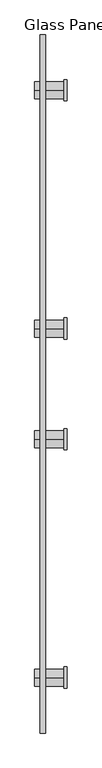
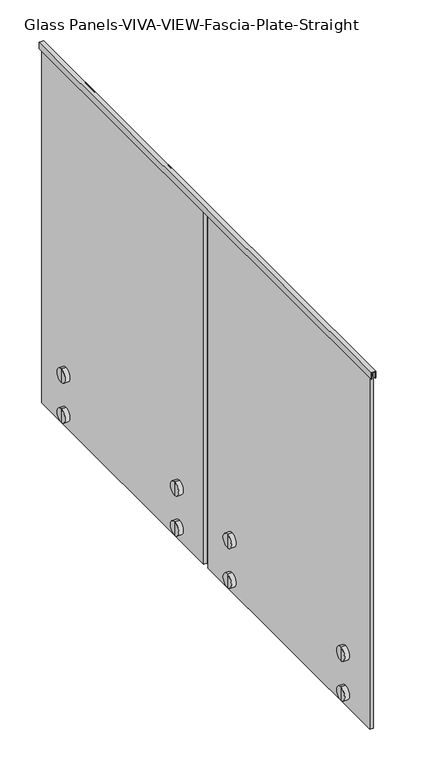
"""IFC4 building model written with IfcOpenShell, lengths in millimetres: railing geometry, Glass Panels-VIVA-VIEW-Fascia-Plate-Straight."""

from ifc_helpers import new_model, si_unit, point, frame, frame_2d, origin, place, context, project, spatial, polyline, circle_curve, trimmed, segment, composite_curve, outline, extrude, source, transform, mapped, element, save
from ifc_brep_helpers import plane_surface, cylinder_surface, advanced_brep


def glass_panels_viva_view_fascia_plate_straight_1b2cf416(model_context):
    return source(origin(), model_context, "Body", "SolidModel", [
        extrude(outline(polyline([(4140.2, 20982.8017902), (4140.2, 20966.9267902), (4114.8, 20966.9267902), (4114.8, 20968.5142902), (4138.6125, 20968.5142902), (4138.6125, 20981.2142902), (4114.8, 20981.2142902), (4114.8, 20982.8017902), (4140.2, 20982.8017902)])), frame((0.0, -10275.2843115, 0.0), z_axis=(0.0, 1.0, 0.0), x_axis=(0.0, 0.0, 1.0)), (0.0, 0.0, 1.0), 2082.8),
        advanced_brep(
        [(20951.0520842, -9068.4012649, 2794.0), (20951.0520842, -9068.4012649, 2819.4), (20951.0520842, -9068.4012649, 2844.8), (20968.5145842, -9068.4012649, 2794.0), (20968.5145842, -9068.4012649, 2844.8), (20968.5145842, -9068.4012649, 2813.685), (20968.5145842, -9068.4012649, 2825.115), (20981.2145842, -9068.4012649, 2813.685), (20981.2145842, -9068.4012649, 2825.115), (20981.2145842, -9068.4012649, 2794.0), (20981.2145842, -9068.4012649, 2844.8), (21038.3644372, -9068.4012649, 2794.0), (21038.3644372, -9068.4012649, 2844.8), (21038.3644372, -9068.4012649, 2819.4)],
        [
            (0, 1),
            (1, 2),
            (2, 0, circle_curve(frame((20951.0520842, -9068.4012649, 2819.4), z_axis=(-1.0, 0.0, 0.0), x_axis=(0.0, 0.0, 1.0)), 25.4)),
            (0, 2, circle_curve(frame((20951.0520842, -9068.4012649, 2819.4), z_axis=(-1.0, 0.0, 0.0), x_axis=(0.0, 0.0, 1.0)), 25.4)),
            (3, 0),
            (2, 4),
            (4, 3, circle_curve(frame((20968.5145842, -9068.4012649, 2819.4), z_axis=(-1.0, 0.0, 0.0), x_axis=(0.0, 0.0, 1.0)), 25.4)),
            (3, 4, circle_curve(frame((20968.5145842, -9068.4012649, 2819.4), z_axis=(-1.0, 0.0, 0.0), x_axis=(0.0, 0.0, 1.0)), 25.4)),
            (5, 3),
            (4, 6),
            (6, 5, circle_curve(frame((20968.5145842, -9068.4012649, 2819.4), z_axis=(-1.0, 0.0, 0.0), x_axis=(0.0, 0.0, 1.0)), 5.715)),
            (5, 6, circle_curve(frame((20968.5145842, -9068.4012649, 2819.4), z_axis=(-1.0, 0.0, 0.0), x_axis=(0.0, 0.0, 1.0)), 5.715)),
            (7, 5),
            (6, 8),
            (8, 7, circle_curve(frame((20981.2145842, -9068.4012649, 2819.4), z_axis=(-1.0, 0.0, 0.0), x_axis=(0.0, 0.0, 1.0)), 5.715)),
            (7, 8, circle_curve(frame((20981.2145842, -9068.4012649, 2819.4), z_axis=(-1.0, 0.0, 0.0), x_axis=(0.0, 0.0, 1.0)), 5.715)),
            (9, 7),
            (8, 10),
            (10, 9, circle_curve(frame((20981.2145842, -9068.4012649, 2819.4), z_axis=(-1.0, 0.0, 0.0), x_axis=(0.0, 0.0, 1.0)), 25.4)),
            (9, 10, circle_curve(frame((20981.2145842, -9068.4012649, 2819.4), z_axis=(-1.0, 0.0, 0.0), x_axis=(0.0, 0.0, 1.0)), 25.4)),
            (11, 9),
            (10, 12),
            (12, 11, circle_curve(frame((21038.3644372, -9068.4012649, 2819.4), z_axis=(-1.0, 0.0, 0.0), x_axis=(0.0, 0.0, 1.0)), 25.4)),
            (11, 12, circle_curve(frame((21038.3644372, -9068.4012649, 2819.4), z_axis=(-1.0, 0.0, 0.0), x_axis=(0.0, 0.0, 1.0)), 25.4)),
            (13, 11),
            (12, 13),
        ],
        [
            plane_surface(frame((20951.0520842, -9068.4012649, 2819.4), z_axis=(-1.0, 0.0, 0.0), x_axis=(0.0, 0.0, 1.0))),
            cylinder_surface(frame((20882.7894372, -9068.4012649, 2819.4), z_axis=(1.0, 0.0, 0.0), x_axis=(0.0, 0.0, 1.0)), 25.4),
            plane_surface(frame((20968.5145842, -9068.4012649, 2819.4), z_axis=(1.0, 0.0, 0.0), x_axis=(0.0, 0.0, 1.0))),
            cylinder_surface(frame((20882.7894372, -9068.4012649, 2819.4), z_axis=(1.0, 0.0, 0.0), x_axis=(0.0, 0.0, 1.0)), 5.715),
            plane_surface(frame((20981.2145842, -9068.4012649, 2819.4), z_axis=(-1.0, 0.0, 0.0), x_axis=(0.0, 0.0, 1.0))),
            plane_surface(frame((21038.3644372, -9068.4012649, 2819.4), z_axis=(1.0, 0.0, 0.0), x_axis=(0.0, 0.0, 1.0))),
        ],
        [
            (0, [[1, 2, 3]]),
            (0, [[-2, -1, 4]]),
            (1, [[5, -3, 6, 7]]),
            (1, [[-6, -4, -5, 8]]),
            (2, [[9, -7, 10, 11]]),
            (2, [[-10, -8, -9, 12]]),
            (3, [[13, -11, 14, 15]]),
            (3, [[-14, -12, -13, 16]]),
            (4, [[17, -15, 18, 19]]),
            (4, [[-18, -16, -17, 20]]),
            (1, [[21, -19, 22, 23]]),
            (1, [[-22, -20, -21, 24]]),
            (5, [[25, -23, 26]]),
            (5, [[-26, -24, -25]]),
        ],
    ),
        advanced_brep(
        [(20968.5145842, -9068.4012649, 2966.085), (20968.5145842, -9068.4012649, 2946.4), (20968.5145842, -9068.4012649, 2997.2), (20968.5145842, -9068.4012649, 2977.515), (20981.2145842, -9068.4012649, 2966.085), (20981.2145842, -9068.4012649, 2977.515), (20981.2145842, -9068.4012649, 2946.4), (20981.2145842, -9068.4012649, 2997.2), (21038.3644372, -9068.4012649, 2946.4), (21038.3644372, -9068.4012649, 2997.2), (21038.3644372, -9068.4012649, 2971.8), (20951.0520842, -9068.4012649, 2946.4), (20951.0520842, -9068.4012649, 2971.8), (20951.0520842, -9068.4012649, 2997.2)],
        [
            (0, 1),
            (1, 2, circle_curve(frame((20968.5145842, -9068.4012649, 2971.8), z_axis=(1.0, 0.0, 0.0), x_axis=(0.0, 0.0, 1.0)), 25.4)),
            (2, 3),
            (3, 0, circle_curve(frame((20968.5145842, -9068.4012649, 2971.8), z_axis=(-1.0, 0.0, 0.0), x_axis=(0.0, 0.0, 1.0)), 5.715)),
            (2, 1, circle_curve(frame((20968.5145842, -9068.4012649, 2971.8), z_axis=(1.0, 0.0, 0.0), x_axis=(0.0, 0.0, 1.0)), 25.4)),
            (0, 3, circle_curve(frame((20968.5145842, -9068.4012649, 2971.8), z_axis=(-1.0, 0.0, 0.0), x_axis=(0.0, 0.0, 1.0)), 5.715)),
            (4, 0),
            (3, 5),
            (5, 4, circle_curve(frame((20981.2145842, -9068.4012649, 2971.8), z_axis=(-1.0, 0.0, 0.0), x_axis=(0.0, 0.0, 1.0)), 5.715)),
            (4, 5, circle_curve(frame((20981.2145842, -9068.4012649, 2971.8), z_axis=(-1.0, 0.0, 0.0), x_axis=(0.0, 0.0, 1.0)), 5.715)),
            (6, 4),
            (5, 7),
            (7, 6, circle_curve(frame((20981.2145842, -9068.4012649, 2971.8), z_axis=(-1.0, 0.0, 0.0), x_axis=(0.0, 0.0, 1.0)), 25.4)),
            (6, 7, circle_curve(frame((20981.2145842, -9068.4012649, 2971.8), z_axis=(-1.0, 0.0, 0.0), x_axis=(0.0, 0.0, 1.0)), 25.4)),
            (8, 6),
            (7, 9),
            (9, 8, circle_curve(frame((21038.3644372, -9068.4012649, 2971.8), z_axis=(-1.0, 0.0, 0.0), x_axis=(0.0, 0.0, 1.0)), 25.4)),
            (8, 9, circle_curve(frame((21038.3644372, -9068.4012649, 2971.8), z_axis=(-1.0, 0.0, 0.0), x_axis=(0.0, 0.0, 1.0)), 25.4)),
            (10, 8),
            (9, 10),
            (11, 12),
            (12, 13),
            (13, 11, circle_curve(frame((20951.0520842, -9068.4012649, 2971.8), z_axis=(-1.0, 0.0, 0.0), x_axis=(0.0, 0.0, 1.0)), 25.4)),
            (11, 13, circle_curve(frame((20951.0520842, -9068.4012649, 2971.8), z_axis=(-1.0, 0.0, 0.0), x_axis=(0.0, 0.0, 1.0)), 25.4)),
            (1, 11),
            (13, 2),
        ],
        [
            plane_surface(frame((20968.5145842, -9068.4012649, 2971.8), z_axis=(1.0, 0.0, 0.0), x_axis=(0.0, 0.0, 1.0))),
            cylinder_surface(frame((20882.7894372, -9068.4012649, 2971.8), z_axis=(1.0, 0.0, 0.0), x_axis=(0.0, 0.0, 1.0)), 5.715),
            plane_surface(frame((20981.2145842, -9068.4012649, 2971.8), z_axis=(-1.0, 0.0, 0.0), x_axis=(0.0, 0.0, 1.0))),
            cylinder_surface(frame((20882.7894372, -9068.4012649, 2971.8), z_axis=(1.0, 0.0, 0.0), x_axis=(0.0, 0.0, 1.0)), 25.4),
            plane_surface(frame((21038.3644372, -9068.4012649, 2971.8), z_axis=(1.0, 0.0, 0.0), x_axis=(0.0, 0.0, 1.0))),
            plane_surface(frame((20951.0520842, -9068.4012649, 2971.8), z_axis=(-1.0, 0.0, 0.0), x_axis=(0.0, 0.0, 1.0))),
        ],
        [
            (0, [[1, 2, 3, 4]]),
            (0, [[-3, 5, -1, 6]]),
            (1, [[7, -4, 8, 9]]),
            (1, [[-8, -6, -7, 10]]),
            (2, [[11, -9, 12, 13]]),
            (2, [[-12, -10, -11, 14]]),
            (3, [[15, -13, 16, 17]]),
            (3, [[-16, -14, -15, 18]]),
            (4, [[19, -17, 20]]),
            (4, [[-20, -18, -19]]),
            (5, [[21, 22, 23]]),
            (5, [[-22, -21, 24]]),
            (3, [[25, -23, 26, -2]]),
            (3, [[-26, -24, -25, -5]]),
        ],
    ),
        extrude(outline(composite_curve([segment(trimmed(circle_curve(frame_2d((-9068.4012649, 2971.8)), 31.75), [point((-9100.1512649, 2971.8))], [point((-9036.6512649, 2971.8))], False, "CARTESIAN"), True, "CONTINUOUS"), segment(polyline([(-9036.6512649, 2971.8), (-9036.6512649, 2819.4)]), True, "CONTINUOUS"), segment(trimmed(circle_curve(frame_2d((-9068.4012649, 2819.4)), 31.75), [point((-9036.6512649, 2819.4))], [point((-9100.1512649, 2819.4))], False, "CARTESIAN"), True, "CONTINUOUS"), segment(polyline([(-9100.1512649, 2819.4), (-9100.1512649, 2971.8)]), True, "CONTINUOUS")], self_intersect=False)), frame((21038.3644372, 0.0, 0.0), z_axis=(1.0, 0.0, 0.0), x_axis=(0.0, 1.0, 0.0)), (0.0, 0.0, 1.0), 9.525),
        advanced_brep(
        [(20951.0520842, -8357.2012649, 2794.0), (20951.0520842, -8357.2012649, 2819.4), (20951.0520842, -8357.2012649, 2844.8), (20968.5145842, -8357.2012649, 2794.0), (20968.5145842, -8357.2012649, 2844.8), (20968.5145842, -8357.2012649, 2813.685), (20968.5145842, -8357.2012649, 2825.115), (20981.2145842, -8357.2012649, 2813.685), (20981.2145842, -8357.2012649, 2825.115), (20981.2145842, -8357.2012649, 2794.0), (20981.2145842, -8357.2012649, 2844.8), (21038.3644372, -8357.2012649, 2794.0), (21038.3644372, -8357.2012649, 2844.8), (21038.3644372, -8357.2012649, 2819.4)],
        [
            (0, 1),
            (1, 2),
            (2, 0, circle_curve(frame((20951.0520842, -8357.2012649, 2819.4), z_axis=(-1.0, 0.0, 0.0), x_axis=(0.0, 0.0, 1.0)), 25.4)),
            (0, 2, circle_curve(frame((20951.0520842, -8357.2012649, 2819.4), z_axis=(-1.0, 0.0, 0.0), x_axis=(0.0, 0.0, 1.0)), 25.4)),
            (3, 0),
            (2, 4),
            (4, 3, circle_curve(frame((20968.5145842, -8357.2012649, 2819.4), z_axis=(-1.0, 0.0, 0.0), x_axis=(0.0, 0.0, 1.0)), 25.4)),
            (3, 4, circle_curve(frame((20968.5145842, -8357.2012649, 2819.4), z_axis=(-1.0, 0.0, 0.0), x_axis=(0.0, 0.0, 1.0)), 25.4)),
            (5, 3),
            (4, 6),
            (6, 5, circle_curve(frame((20968.5145842, -8357.2012649, 2819.4), z_axis=(-1.0, 0.0, 0.0), x_axis=(0.0, 0.0, 1.0)), 5.715)),
            (5, 6, circle_curve(frame((20968.5145842, -8357.2012649, 2819.4), z_axis=(-1.0, 0.0, 0.0), x_axis=(0.0, 0.0, 1.0)), 5.715)),
            (7, 5),
            (6, 8),
            (8, 7, circle_curve(frame((20981.2145842, -8357.2012649, 2819.4), z_axis=(-1.0, 0.0, 0.0), x_axis=(0.0, 0.0, 1.0)), 5.715)),
            (7, 8, circle_curve(frame((20981.2145842, -8357.2012649, 2819.4), z_axis=(-1.0, 0.0, 0.0), x_axis=(0.0, 0.0, 1.0)), 5.715)),
            (9, 7),
            (8, 10),
            (10, 9, circle_curve(frame((20981.2145842, -8357.2012649, 2819.4), z_axis=(-1.0, 0.0, 0.0), x_axis=(0.0, 0.0, 1.0)), 25.4)),
            (9, 10, circle_curve(frame((20981.2145842, -8357.2012649, 2819.4), z_axis=(-1.0, 0.0, 0.0), x_axis=(0.0, 0.0, 1.0)), 25.4)),
            (11, 9),
            (10, 12),
            (12, 11, circle_curve(frame((21038.3644372, -8357.2012649, 2819.4), z_axis=(-1.0, 0.0, 0.0), x_axis=(0.0, 0.0, 1.0)), 25.4)),
            (11, 12, circle_curve(frame((21038.3644372, -8357.2012649, 2819.4), z_axis=(-1.0, 0.0, 0.0), x_axis=(0.0, 0.0, 1.0)), 25.4)),
            (13, 11),
            (12, 13),
        ],
        [
            plane_surface(frame((20951.0520842, -8357.2012649, 2819.4), z_axis=(-1.0, 0.0, 0.0), x_axis=(0.0, 0.0, 1.0))),
            cylinder_surface(frame((20882.7894372, -8357.2012649, 2819.4), z_axis=(1.0, 0.0, 0.0), x_axis=(0.0, 0.0, 1.0)), 25.4),
            plane_surface(frame((20968.5145842, -8357.2012649, 2819.4), z_axis=(1.0, 0.0, 0.0), x_axis=(0.0, 0.0, 1.0))),
            cylinder_surface(frame((20882.7894372, -8357.2012649, 2819.4), z_axis=(1.0, 0.0, 0.0), x_axis=(0.0, 0.0, 1.0)), 5.715),
            plane_surface(frame((20981.2145842, -8357.2012649, 2819.4), z_axis=(-1.0, 0.0, 0.0), x_axis=(0.0, 0.0, 1.0))),
            plane_surface(frame((21038.3644372, -8357.2012649, 2819.4), z_axis=(1.0, 0.0, 0.0), x_axis=(0.0, 0.0, 1.0))),
        ],
        [
            (0, [[1, 2, 3]]),
            (0, [[-2, -1, 4]]),
            (1, [[5, -3, 6, 7]]),
            (1, [[-6, -4, -5, 8]]),
            (2, [[9, -7, 10, 11]]),
            (2, [[-10, -8, -9, 12]]),
            (3, [[13, -11, 14, 15]]),
            (3, [[-14, -12, -13, 16]]),
            (4, [[17, -15, 18, 19]]),
            (4, [[-18, -16, -17, 20]]),
            (1, [[21, -19, 22, 23]]),
            (1, [[-22, -20, -21, 24]]),
            (5, [[25, -23, 26]]),
            (5, [[-26, -24, -25]]),
        ],
    ),
        advanced_brep(
        [(20968.5145842, -8357.2012649, 2966.085), (20968.5145842, -8357.2012649, 2946.4), (20968.5145842, -8357.2012649, 2997.2), (20968.5145842, -8357.2012649, 2977.515), (20981.2145842, -8357.2012649, 2966.085), (20981.2145842, -8357.2012649, 2977.515), (20981.2145842, -8357.2012649, 2946.4), (20981.2145842, -8357.2012649, 2997.2), (21038.3644372, -8357.2012649, 2946.4), (21038.3644372, -8357.2012649, 2997.2), (21038.3644372, -8357.2012649, 2971.8), (20951.0520842, -8357.2012649, 2946.4), (20951.0520842, -8357.2012649, 2971.8), (20951.0520842, -8357.2012649, 2997.2)],
        [
            (0, 1),
            (1, 2, circle_curve(frame((20968.5145842, -8357.2012649, 2971.8), z_axis=(1.0, 0.0, 0.0), x_axis=(0.0, 0.0, 1.0)), 25.4)),
            (2, 3),
            (3, 0, circle_curve(frame((20968.5145842, -8357.2012649, 2971.8), z_axis=(-1.0, 0.0, 0.0), x_axis=(0.0, 0.0, 1.0)), 5.715)),
            (2, 1, circle_curve(frame((20968.5145842, -8357.2012649, 2971.8), z_axis=(1.0, 0.0, 0.0), x_axis=(0.0, 0.0, 1.0)), 25.4)),
            (0, 3, circle_curve(frame((20968.5145842, -8357.2012649, 2971.8), z_axis=(-1.0, 0.0, 0.0), x_axis=(0.0, 0.0, 1.0)), 5.715)),
            (4, 0),
            (3, 5),
            (5, 4, circle_curve(frame((20981.2145842, -8357.2012649, 2971.8), z_axis=(-1.0, 0.0, 0.0), x_axis=(0.0, 0.0, 1.0)), 5.715)),
            (4, 5, circle_curve(frame((20981.2145842, -8357.2012649, 2971.8), z_axis=(-1.0, 0.0, 0.0), x_axis=(0.0, 0.0, 1.0)), 5.715)),
            (6, 4),
            (5, 7),
            (7, 6, circle_curve(frame((20981.2145842, -8357.2012649, 2971.8), z_axis=(-1.0, 0.0, 0.0), x_axis=(0.0, 0.0, 1.0)), 25.4)),
            (6, 7, circle_curve(frame((20981.2145842, -8357.2012649, 2971.8), z_axis=(-1.0, 0.0, 0.0), x_axis=(0.0, 0.0, 1.0)), 25.4)),
            (8, 6),
            (7, 9),
            (9, 8, circle_curve(frame((21038.3644372, -8357.2012649, 2971.8), z_axis=(-1.0, 0.0, 0.0), x_axis=(0.0, 0.0, 1.0)), 25.4)),
            (8, 9, circle_curve(frame((21038.3644372, -8357.2012649, 2971.8), z_axis=(-1.0, 0.0, 0.0), x_axis=(0.0, 0.0, 1.0)), 25.4)),
            (10, 8),
            (9, 10),
            (11, 12),
            (12, 13),
            (13, 11, circle_curve(frame((20951.0520842, -8357.2012649, 2971.8), z_axis=(-1.0, 0.0, 0.0), x_axis=(0.0, 0.0, 1.0)), 25.4)),
            (11, 13, circle_curve(frame((20951.0520842, -8357.2012649, 2971.8), z_axis=(-1.0, 0.0, 0.0), x_axis=(0.0, 0.0, 1.0)), 25.4)),
            (1, 11),
            (13, 2),
        ],
        [
            plane_surface(frame((20968.5145842, -8357.2012649, 2971.8), z_axis=(1.0, 0.0, 0.0), x_axis=(0.0, 0.0, 1.0))),
            cylinder_surface(frame((20882.7894372, -8357.2012649, 2971.8), z_axis=(1.0, 0.0, 0.0), x_axis=(0.0, 0.0, 1.0)), 5.715),
            plane_surface(frame((20981.2145842, -8357.2012649, 2971.8), z_axis=(-1.0, 0.0, 0.0), x_axis=(0.0, 0.0, 1.0))),
            cylinder_surface(frame((20882.7894372, -8357.2012649, 2971.8), z_axis=(1.0, 0.0, 0.0), x_axis=(0.0, 0.0, 1.0)), 25.4),
            plane_surface(frame((21038.3644372, -8357.2012649, 2971.8), z_axis=(1.0, 0.0, 0.0), x_axis=(0.0, 0.0, 1.0))),
            plane_surface(frame((20951.0520842, -8357.2012649, 2971.8), z_axis=(-1.0, 0.0, 0.0), x_axis=(0.0, 0.0, 1.0))),
        ],
        [
            (0, [[1, 2, 3, 4]]),
            (0, [[-3, 5, -1, 6]]),
            (1, [[7, -4, 8, 9]]),
            (1, [[-8, -6, -7, 10]]),
            (2, [[11, -9, 12, 13]]),
            (2, [[-12, -10, -11, 14]]),
            (3, [[15, -13, 16, 17]]),
            (3, [[-16, -14, -15, 18]]),
            (4, [[19, -17, 20]]),
            (4, [[-20, -18, -19]]),
            (5, [[21, 22, 23]]),
            (5, [[-22, -21, 24]]),
            (3, [[25, -23, 26, -2]]),
            (3, [[-26, -24, -25, -5]]),
        ],
    ),
        extrude(outline(composite_curve([segment(trimmed(circle_curve(frame_2d((-8357.2012649, 2971.8)), 31.75), [point((-8388.9512649, 2971.8))], [point((-8325.4512649, 2971.8))], False, "CARTESIAN"), True, "CONTINUOUS"), segment(polyline([(-8325.4512649, 2971.8), (-8325.4512649, 2819.4)]), True, "CONTINUOUS"), segment(trimmed(circle_curve(frame_2d((-8357.2012649, 2819.4)), 31.75), [point((-8325.4512649, 2819.4))], [point((-8388.9512649, 2819.4))], False, "CARTESIAN"), True, "CONTINUOUS"), segment(polyline([(-8388.9512649, 2819.4), (-8388.9512649, 2971.8)]), True, "CONTINUOUS")], self_intersect=False)), frame((21038.3644372, 0.0, 0.0), z_axis=(1.0, 0.0, 0.0), x_axis=(0.0, 1.0, 0.0)), (0.0, 0.0, 1.0), 9.525),
        extrude(outline(polyline([(20981.2142902, -9220.8012649), (20968.5142902, -9220.8012649), (20968.5142902, -8204.8012649), (20981.2142902, -8204.8012649), (20981.2142902, -9220.8012649)])), frame((0.0, 0.0, 2768.6), z_axis=(0.0, 0.0, 1.0), x_axis=(1.0, 0.0, 0.0)), (0.0, 0.0, 1.0), 1370.0125),
        advanced_brep(
        [(20951.0520842, -10109.8012649, 2794.0), (20951.0520842, -10109.8012649, 2819.4), (20951.0520842, -10109.8012649, 2844.8), (20968.5145842, -10109.8012649, 2794.0), (20968.5145842, -10109.8012649, 2844.8), (20968.5145842, -10109.8012649, 2813.685), (20968.5145842, -10109.8012649, 2825.115), (20981.2145842, -10109.8012649, 2813.685), (20981.2145842, -10109.8012649, 2825.115), (20981.2145842, -10109.8012649, 2794.0), (20981.2145842, -10109.8012649, 2844.8), (21038.3644372, -10109.8012649, 2794.0), (21038.3644372, -10109.8012649, 2844.8), (21038.3644372, -10109.8012649, 2819.4)],
        [
            (0, 1),
            (1, 2),
            (2, 0, circle_curve(frame((20951.0520842, -10109.8012649, 2819.4), z_axis=(-1.0, 0.0, 0.0), x_axis=(0.0, 0.0, 1.0)), 25.4)),
            (0, 2, circle_curve(frame((20951.0520842, -10109.8012649, 2819.4), z_axis=(-1.0, 0.0, 0.0), x_axis=(0.0, 0.0, 1.0)), 25.4)),
            (3, 0),
            (2, 4),
            (4, 3, circle_curve(frame((20968.5145842, -10109.8012649, 2819.4), z_axis=(-1.0, 0.0, 0.0), x_axis=(0.0, 0.0, 1.0)), 25.4)),
            (3, 4, circle_curve(frame((20968.5145842, -10109.8012649, 2819.4), z_axis=(-1.0, 0.0, 0.0), x_axis=(0.0, 0.0, 1.0)), 25.4)),
            (5, 3),
            (4, 6),
            (6, 5, circle_curve(frame((20968.5145842, -10109.8012649, 2819.4), z_axis=(-1.0, 0.0, 0.0), x_axis=(0.0, 0.0, 1.0)), 5.715)),
            (5, 6, circle_curve(frame((20968.5145842, -10109.8012649, 2819.4), z_axis=(-1.0, 0.0, 0.0), x_axis=(0.0, 0.0, 1.0)), 5.715)),
            (7, 5),
            (6, 8),
            (8, 7, circle_curve(frame((20981.2145842, -10109.8012649, 2819.4), z_axis=(-1.0, 0.0, 0.0), x_axis=(0.0, 0.0, 1.0)), 5.715)),
            (7, 8, circle_curve(frame((20981.2145842, -10109.8012649, 2819.4), z_axis=(-1.0, 0.0, 0.0), x_axis=(0.0, 0.0, 1.0)), 5.715)),
            (9, 7),
            (8, 10),
            (10, 9, circle_curve(frame((20981.2145842, -10109.8012649, 2819.4), z_axis=(-1.0, 0.0, 0.0), x_axis=(0.0, 0.0, 1.0)), 25.4)),
            (9, 10, circle_curve(frame((20981.2145842, -10109.8012649, 2819.4), z_axis=(-1.0, 0.0, 0.0), x_axis=(0.0, 0.0, 1.0)), 25.4)),
            (11, 9),
            (10, 12),
            (12, 11, circle_curve(frame((21038.3644372, -10109.8012649, 2819.4), z_axis=(-1.0, 0.0, 0.0), x_axis=(0.0, 0.0, 1.0)), 25.4)),
            (11, 12, circle_curve(frame((21038.3644372, -10109.8012649, 2819.4), z_axis=(-1.0, 0.0, 0.0), x_axis=(0.0, 0.0, 1.0)), 25.4)),
            (13, 11),
            (12, 13),
        ],
        [
            plane_surface(frame((20951.0520842, -10109.8012649, 2819.4), z_axis=(-1.0, 0.0, 0.0), x_axis=(0.0, 0.0, 1.0))),
            cylinder_surface(frame((20882.7894372, -10109.8012649, 2819.4), z_axis=(1.0, 0.0, 0.0), x_axis=(0.0, 0.0, 1.0)), 25.4),
            plane_surface(frame((20968.5145842, -10109.8012649, 2819.4), z_axis=(1.0, 0.0, 0.0), x_axis=(0.0, 0.0, 1.0))),
            cylinder_surface(frame((20882.7894372, -10109.8012649, 2819.4), z_axis=(1.0, 0.0, 0.0), x_axis=(0.0, 0.0, 1.0)), 5.715),
            plane_surface(frame((20981.2145842, -10109.8012649, 2819.4), z_axis=(-1.0, 0.0, 0.0), x_axis=(0.0, 0.0, 1.0))),
            plane_surface(frame((21038.3644372, -10109.8012649, 2819.4), z_axis=(1.0, 0.0, 0.0), x_axis=(0.0, 0.0, 1.0))),
        ],
        [
            (0, [[1, 2, 3]]),
            (0, [[-2, -1, 4]]),
            (1, [[5, -3, 6, 7]]),
            (1, [[-6, -4, -5, 8]]),
            (2, [[9, -7, 10, 11]]),
            (2, [[-10, -8, -9, 12]]),
            (3, [[13, -11, 14, 15]]),
            (3, [[-14, -12, -13, 16]]),
            (4, [[17, -15, 18, 19]]),
            (4, [[-18, -16, -17, 20]]),
            (1, [[21, -19, 22, 23]]),
            (1, [[-22, -20, -21, 24]]),
            (5, [[25, -23, 26]]),
            (5, [[-26, -24, -25]]),
        ],
    ),
        advanced_brep(
        [(20968.5145842, -10109.8012649, 2966.085), (20968.5145842, -10109.8012649, 2946.4), (20968.5145842, -10109.8012649, 2997.2), (20968.5145842, -10109.8012649, 2977.515), (20981.2145842, -10109.8012649, 2966.085), (20981.2145842, -10109.8012649, 2977.515), (20981.2145842, -10109.8012649, 2946.4), (20981.2145842, -10109.8012649, 2997.2), (21038.3644372, -10109.8012649, 2946.4), (21038.3644372, -10109.8012649, 2997.2), (21038.3644372, -10109.8012649, 2971.8), (20951.0520842, -10109.8012649, 2946.4), (20951.0520842, -10109.8012649, 2971.8), (20951.0520842, -10109.8012649, 2997.2)],
        [
            (0, 1),
            (1, 2, circle_curve(frame((20968.5145842, -10109.8012649, 2971.8), z_axis=(1.0, 0.0, 0.0), x_axis=(0.0, 0.0, 1.0)), 25.4)),
            (2, 3),
            (3, 0, circle_curve(frame((20968.5145842, -10109.8012649, 2971.8), z_axis=(-1.0, 0.0, 0.0), x_axis=(0.0, 0.0, 1.0)), 5.715)),
            (2, 1, circle_curve(frame((20968.5145842, -10109.8012649, 2971.8), z_axis=(1.0, 0.0, 0.0), x_axis=(0.0, 0.0, 1.0)), 25.4)),
            (0, 3, circle_curve(frame((20968.5145842, -10109.8012649, 2971.8), z_axis=(-1.0, 0.0, 0.0), x_axis=(0.0, 0.0, 1.0)), 5.715)),
            (4, 0),
            (3, 5),
            (5, 4, circle_curve(frame((20981.2145842, -10109.8012649, 2971.8), z_axis=(-1.0, 0.0, 0.0), x_axis=(0.0, 0.0, 1.0)), 5.715)),
            (4, 5, circle_curve(frame((20981.2145842, -10109.8012649, 2971.8), z_axis=(-1.0, 0.0, 0.0), x_axis=(0.0, 0.0, 1.0)), 5.715)),
            (6, 4),
            (5, 7),
            (7, 6, circle_curve(frame((20981.2145842, -10109.8012649, 2971.8), z_axis=(-1.0, 0.0, 0.0), x_axis=(0.0, 0.0, 1.0)), 25.4)),
            (6, 7, circle_curve(frame((20981.2145842, -10109.8012649, 2971.8), z_axis=(-1.0, 0.0, 0.0), x_axis=(0.0, 0.0, 1.0)), 25.4)),
            (8, 6),
            (7, 9),
            (9, 8, circle_curve(frame((21038.3644372, -10109.8012649, 2971.8), z_axis=(-1.0, 0.0, 0.0), x_axis=(0.0, 0.0, 1.0)), 25.4)),
            (8, 9, circle_curve(frame((21038.3644372, -10109.8012649, 2971.8), z_axis=(-1.0, 0.0, 0.0), x_axis=(0.0, 0.0, 1.0)), 25.4)),
            (10, 8),
            (9, 10),
            (11, 12),
            (12, 13),
            (13, 11, circle_curve(frame((20951.0520842, -10109.8012649, 2971.8), z_axis=(-1.0, 0.0, 0.0), x_axis=(0.0, 0.0, 1.0)), 25.4)),
            (11, 13, circle_curve(frame((20951.0520842, -10109.8012649, 2971.8), z_axis=(-1.0, 0.0, 0.0), x_axis=(0.0, 0.0, 1.0)), 25.4)),
            (1, 11),
            (13, 2),
        ],
        [
            plane_surface(frame((20968.5145842, -10109.8012649, 2971.8), z_axis=(1.0, 0.0, 0.0), x_axis=(0.0, 0.0, 1.0))),
            cylinder_surface(frame((20882.7894372, -10109.8012649, 2971.8), z_axis=(1.0, 0.0, 0.0), x_axis=(0.0, 0.0, 1.0)), 5.715),
            plane_surface(frame((20981.2145842, -10109.8012649, 2971.8), z_axis=(-1.0, 0.0, 0.0), x_axis=(0.0, 0.0, 1.0))),
            cylinder_surface(frame((20882.7894372, -10109.8012649, 2971.8), z_axis=(1.0, 0.0, 0.0), x_axis=(0.0, 0.0, 1.0)), 25.4),
            plane_surface(frame((21038.3644372, -10109.8012649, 2971.8), z_axis=(1.0, 0.0, 0.0), x_axis=(0.0, 0.0, 1.0))),
            plane_surface(frame((20951.0520842, -10109.8012649, 2971.8), z_axis=(-1.0, 0.0, 0.0), x_axis=(0.0, 0.0, 1.0))),
        ],
        [
            (0, [[1, 2, 3, 4]]),
            (0, [[-3, 5, -1, 6]]),
            (1, [[7, -4, 8, 9]]),
            (1, [[-8, -6, -7, 10]]),
            (2, [[11, -9, 12, 13]]),
            (2, [[-12, -10, -11, 14]]),
            (3, [[15, -13, 16, 17]]),
            (3, [[-16, -14, -15, 18]]),
            (4, [[19, -17, 20]]),
            (4, [[-20, -18, -19]]),
            (5, [[21, 22, 23]]),
            (5, [[-22, -21, 24]]),
            (3, [[25, -23, 26, -2]]),
            (3, [[-26, -24, -25, -5]]),
        ],
    ),
        extrude(outline(composite_curve([segment(trimmed(circle_curve(frame_2d((-10109.8012649, 2971.8)), 31.75), [point((-10141.5512649, 2971.8))], [point((-10078.0512649, 2971.8))], False, "CARTESIAN"), True, "CONTINUOUS"), segment(polyline([(-10078.0512649, 2971.8), (-10078.0512649, 2819.4)]), True, "CONTINUOUS"), segment(trimmed(circle_curve(frame_2d((-10109.8012649, 2819.4)), 31.75), [point((-10078.0512649, 2819.4))], [point((-10141.5512649, 2819.4))], False, "CARTESIAN"), True, "CONTINUOUS"), segment(polyline([(-10141.5512649, 2819.4), (-10141.5512649, 2971.8)]), True, "CONTINUOUS")], self_intersect=False)), frame((21038.3644372, 0.0, 0.0), z_axis=(1.0, 0.0, 0.0), x_axis=(0.0, 1.0, 0.0)), (0.0, 0.0, 1.0), 9.525),
        advanced_brep(
        [(20951.0520842, -9398.6012649, 2794.0), (20951.0520842, -9398.6012649, 2819.4), (20951.0520842, -9398.6012649, 2844.8), (20968.5145842, -9398.6012649, 2794.0), (20968.5145842, -9398.6012649, 2844.8), (20968.5145842, -9398.6012649, 2813.685), (20968.5145842, -9398.6012649, 2825.115), (20981.2145842, -9398.6012649, 2813.685), (20981.2145842, -9398.6012649, 2825.115), (20981.2145842, -9398.6012649, 2794.0), (20981.2145842, -9398.6012649, 2844.8), (21038.3644372, -9398.6012649, 2794.0), (21038.3644372, -9398.6012649, 2844.8), (21038.3644372, -9398.6012649, 2819.4)],
        [
            (0, 1),
            (1, 2),
            (2, 0, circle_curve(frame((20951.0520842, -9398.6012649, 2819.4), z_axis=(-1.0, 0.0, 0.0), x_axis=(0.0, 0.0, 1.0)), 25.4)),
            (0, 2, circle_curve(frame((20951.0520842, -9398.6012649, 2819.4), z_axis=(-1.0, 0.0, 0.0), x_axis=(0.0, 0.0, 1.0)), 25.4)),
            (3, 0),
            (2, 4),
            (4, 3, circle_curve(frame((20968.5145842, -9398.6012649, 2819.4), z_axis=(-1.0, 0.0, 0.0), x_axis=(0.0, 0.0, 1.0)), 25.4)),
            (3, 4, circle_curve(frame((20968.5145842, -9398.6012649, 2819.4), z_axis=(-1.0, 0.0, 0.0), x_axis=(0.0, 0.0, 1.0)), 25.4)),
            (5, 3),
            (4, 6),
            (6, 5, circle_curve(frame((20968.5145842, -9398.6012649, 2819.4), z_axis=(-1.0, 0.0, 0.0), x_axis=(0.0, 0.0, 1.0)), 5.715)),
            (5, 6, circle_curve(frame((20968.5145842, -9398.6012649, 2819.4), z_axis=(-1.0, 0.0, 0.0), x_axis=(0.0, 0.0, 1.0)), 5.715)),
            (7, 5),
            (6, 8),
            (8, 7, circle_curve(frame((20981.2145842, -9398.6012649, 2819.4), z_axis=(-1.0, 0.0, 0.0), x_axis=(0.0, 0.0, 1.0)), 5.715)),
            (7, 8, circle_curve(frame((20981.2145842, -9398.6012649, 2819.4), z_axis=(-1.0, 0.0, 0.0), x_axis=(0.0, 0.0, 1.0)), 5.715)),
            (9, 7),
            (8, 10),
            (10, 9, circle_curve(frame((20981.2145842, -9398.6012649, 2819.4), z_axis=(-1.0, 0.0, 0.0), x_axis=(0.0, 0.0, 1.0)), 25.4)),
            (9, 10, circle_curve(frame((20981.2145842, -9398.6012649, 2819.4), z_axis=(-1.0, 0.0, 0.0), x_axis=(0.0, 0.0, 1.0)), 25.4)),
            (11, 9),
            (10, 12),
            (12, 11, circle_curve(frame((21038.3644372, -9398.6012649, 2819.4), z_axis=(-1.0, 0.0, 0.0), x_axis=(0.0, 0.0, 1.0)), 25.4)),
            (11, 12, circle_curve(frame((21038.3644372, -9398.6012649, 2819.4), z_axis=(-1.0, 0.0, 0.0), x_axis=(0.0, 0.0, 1.0)), 25.4)),
            (13, 11),
            (12, 13),
        ],
        [
            plane_surface(frame((20951.0520842, -9398.6012649, 2819.4), z_axis=(-1.0, 0.0, 0.0), x_axis=(0.0, 0.0, 1.0))),
            cylinder_surface(frame((20882.7894372, -9398.6012649, 2819.4), z_axis=(1.0, 0.0, 0.0), x_axis=(0.0, 0.0, 1.0)), 25.4),
            plane_surface(frame((20968.5145842, -9398.6012649, 2819.4), z_axis=(1.0, 0.0, 0.0), x_axis=(0.0, 0.0, 1.0))),
            cylinder_surface(frame((20882.7894372, -9398.6012649, 2819.4), z_axis=(1.0, 0.0, 0.0), x_axis=(0.0, 0.0, 1.0)), 5.715),
            plane_surface(frame((20981.2145842, -9398.6012649, 2819.4), z_axis=(-1.0, 0.0, 0.0), x_axis=(0.0, 0.0, 1.0))),
            plane_surface(frame((21038.3644372, -9398.6012649, 2819.4), z_axis=(1.0, 0.0, 0.0), x_axis=(0.0, 0.0, 1.0))),
        ],
        [
            (0, [[1, 2, 3]]),
            (0, [[-2, -1, 4]]),
            (1, [[5, -3, 6, 7]]),
            (1, [[-6, -4, -5, 8]]),
            (2, [[9, -7, 10, 11]]),
            (2, [[-10, -8, -9, 12]]),
            (3, [[13, -11, 14, 15]]),
            (3, [[-14, -12, -13, 16]]),
            (4, [[17, -15, 18, 19]]),
            (4, [[-18, -16, -17, 20]]),
            (1, [[21, -19, 22, 23]]),
            (1, [[-22, -20, -21, 24]]),
            (5, [[25, -23, 26]]),
            (5, [[-26, -24, -25]]),
        ],
    ),
        advanced_brep(
        [(20968.5145842, -9398.6012649, 2966.085), (20968.5145842, -9398.6012649, 2946.4), (20968.5145842, -9398.6012649, 2997.2), (20968.5145842, -9398.6012649, 2977.515), (20981.2145842, -9398.6012649, 2966.085), (20981.2145842, -9398.6012649, 2977.515), (20981.2145842, -9398.6012649, 2946.4), (20981.2145842, -9398.6012649, 2997.2), (21038.3644372, -9398.6012649, 2946.4), (21038.3644372, -9398.6012649, 2997.2), (21038.3644372, -9398.6012649, 2971.8), (20951.0520842, -9398.6012649, 2946.4), (20951.0520842, -9398.6012649, 2971.8), (20951.0520842, -9398.6012649, 2997.2)],
        [
            (0, 1),
            (1, 2, circle_curve(frame((20968.5145842, -9398.6012649, 2971.8), z_axis=(1.0, 0.0, 0.0), x_axis=(0.0, 0.0, 1.0)), 25.4)),
            (2, 3),
            (3, 0, circle_curve(frame((20968.5145842, -9398.6012649, 2971.8), z_axis=(-1.0, 0.0, 0.0), x_axis=(0.0, 0.0, 1.0)), 5.715)),
            (2, 1, circle_curve(frame((20968.5145842, -9398.6012649, 2971.8), z_axis=(1.0, 0.0, 0.0), x_axis=(0.0, 0.0, 1.0)), 25.4)),
            (0, 3, circle_curve(frame((20968.5145842, -9398.6012649, 2971.8), z_axis=(-1.0, 0.0, 0.0), x_axis=(0.0, 0.0, 1.0)), 5.715)),
            (4, 0),
            (3, 5),
            (5, 4, circle_curve(frame((20981.2145842, -9398.6012649, 2971.8), z_axis=(-1.0, 0.0, 0.0), x_axis=(0.0, 0.0, 1.0)), 5.715)),
            (4, 5, circle_curve(frame((20981.2145842, -9398.6012649, 2971.8), z_axis=(-1.0, 0.0, 0.0), x_axis=(0.0, 0.0, 1.0)), 5.715)),
            (6, 4),
            (5, 7),
            (7, 6, circle_curve(frame((20981.2145842, -9398.6012649, 2971.8), z_axis=(-1.0, 0.0, 0.0), x_axis=(0.0, 0.0, 1.0)), 25.4)),
            (6, 7, circle_curve(frame((20981.2145842, -9398.6012649, 2971.8), z_axis=(-1.0, 0.0, 0.0), x_axis=(0.0, 0.0, 1.0)), 25.4)),
            (8, 6),
            (7, 9),
            (9, 8, circle_curve(frame((21038.3644372, -9398.6012649, 2971.8), z_axis=(-1.0, 0.0, 0.0), x_axis=(0.0, 0.0, 1.0)), 25.4)),
            (8, 9, circle_curve(frame((21038.3644372, -9398.6012649, 2971.8), z_axis=(-1.0, 0.0, 0.0), x_axis=(0.0, 0.0, 1.0)), 25.4)),
            (10, 8),
            (9, 10),
            (11, 12),
            (12, 13),
            (13, 11, circle_curve(frame((20951.0520842, -9398.6012649, 2971.8), z_axis=(-1.0, 0.0, 0.0), x_axis=(0.0, 0.0, 1.0)), 25.4)),
            (11, 13, circle_curve(frame((20951.0520842, -9398.6012649, 2971.8), z_axis=(-1.0, 0.0, 0.0), x_axis=(0.0, 0.0, 1.0)), 25.4)),
            (1, 11),
            (13, 2),
        ],
        [
            plane_surface(frame((20968.5145842, -9398.6012649, 2971.8), z_axis=(1.0, 0.0, 0.0), x_axis=(0.0, 0.0, 1.0))),
            cylinder_surface(frame((20882.7894372, -9398.6012649, 2971.8), z_axis=(1.0, 0.0, 0.0), x_axis=(0.0, 0.0, 1.0)), 5.715),
            plane_surface(frame((20981.2145842, -9398.6012649, 2971.8), z_axis=(-1.0, 0.0, 0.0), x_axis=(0.0, 0.0, 1.0))),
            cylinder_surface(frame((20882.7894372, -9398.6012649, 2971.8), z_axis=(1.0, 0.0, 0.0), x_axis=(0.0, 0.0, 1.0)), 25.4),
            plane_surface(frame((21038.3644372, -9398.6012649, 2971.8), z_axis=(1.0, 0.0, 0.0), x_axis=(0.0, 0.0, 1.0))),
            plane_surface(frame((20951.0520842, -9398.6012649, 2971.8), z_axis=(-1.0, 0.0, 0.0), x_axis=(0.0, 0.0, 1.0))),
        ],
        [
            (0, [[1, 2, 3, 4]]),
            (0, [[-3, 5, -1, 6]]),
            (1, [[7, -4, 8, 9]]),
            (1, [[-8, -6, -7, 10]]),
            (2, [[11, -9, 12, 13]]),
            (2, [[-12, -10, -11, 14]]),
            (3, [[15, -13, 16, 17]]),
            (3, [[-16, -14, -15, 18]]),
            (4, [[19, -17, 20]]),
            (4, [[-20, -18, -19]]),
            (5, [[21, 22, 23]]),
            (5, [[-22, -21, 24]]),
            (3, [[25, -23, 26, -2]]),
            (3, [[-26, -24, -25, -5]]),
        ],
    ),
        extrude(outline(composite_curve([segment(trimmed(circle_curve(frame_2d((-9398.6012649, 2971.8)), 31.75), [point((-9430.3512649, 2971.8))], [point((-9366.8512649, 2971.8))], False, "CARTESIAN"), True, "CONTINUOUS"), segment(polyline([(-9366.8512649, 2971.8), (-9366.8512649, 2819.4)]), True, "CONTINUOUS"), segment(trimmed(circle_curve(frame_2d((-9398.6012649, 2819.4)), 31.75), [point((-9366.8512649, 2819.4))], [point((-9430.3512649, 2819.4))], False, "CARTESIAN"), True, "CONTINUOUS"), segment(polyline([(-9430.3512649, 2819.4), (-9430.3512649, 2971.8)]), True, "CONTINUOUS")], self_intersect=False)), frame((21038.3644372, 0.0, 0.0), z_axis=(1.0, 0.0, 0.0), x_axis=(0.0, 1.0, 0.0)), (0.0, 0.0, 1.0), 9.525),
        extrude(outline(polyline([(20981.2142902, -10262.2012649), (20968.5142902, -10262.2012649), (20968.5142902, -9246.2012649), (20981.2142902, -9246.2012649), (20981.2142902, -10262.2012649)])), frame((0.0, 0.0, 2768.6), z_axis=(0.0, 0.0, 1.0), x_axis=(1.0, 0.0, 0.0)), (0.0, 0.0, 1.0), 1370.0125),
    ])


if __name__ == "__main__":
    model = new_model("IFC4")
    model_context = context("Model", 3, world=origin())
    ifc_project = project(units=[si_unit("LENGTHUNIT", "METRE", prefix="MILLI")], contexts=[model_context])
    site = spatial("IfcSite", under=ifc_project)
    building = spatial("IfcBuilding", under=site)
    placement = place(None, origin())
    glass_panels_viva_view_fascia_plate_straight_shape = glass_panels_viva_view_fascia_plate_straight_1b2cf416(model_context)
    element("IfcRailing", 1, ObjectType="Glass Panels-VIVA-VIEW-Fascia-Plate-Straight", at=placement, inside=building, context=model_context, shape_type="MappedRepresentation", body=[
        mapped(glass_panels_viva_view_fascia_plate_straight_shape, transform((0.0, 0.0, 0.0), x_axis=(1.0, 0.0, 0.0), y_axis=(0.0, 1.0, 0.0), z_axis=(0.0, 0.0, 1.0))),
    ])
    save(model, "model.ifc")
